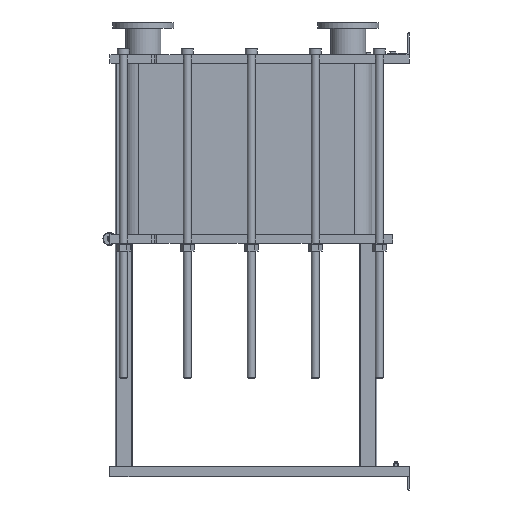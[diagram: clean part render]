
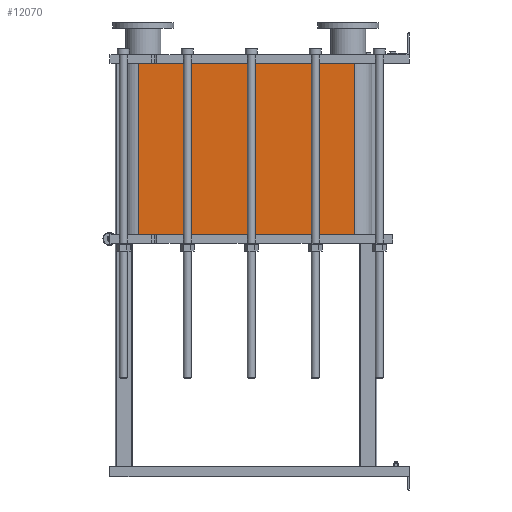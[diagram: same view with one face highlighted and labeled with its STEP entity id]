
A CAD part, left-side view. The second image highlights one B-rep face of the part: STEP entity #12070.
In plain terms, the highlighted planar face has unit normal (-1, 0, 0).
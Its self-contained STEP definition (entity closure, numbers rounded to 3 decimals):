
#1064=LINE('',#21140,#2164);
#1065=LINE('',#21144,#2165);
#1066=LINE('',#21146,#2166);
#1067=LINE('',#21147,#2167);
#2164=VECTOR('',#15790,10.);
#2165=VECTOR('',#15795,10.);
#2166=VECTOR('',#15796,10.);
#2167=VECTOR('',#15797,10.);
#3304=FACE_OUTER_BOUND('',#4091,.T.);
#4091=EDGE_LOOP('',(#9793,#9794,#9795,#9796));
#5677=VERTEX_POINT('',#21137);
#5678=VERTEX_POINT('',#21139);
#5679=VERTEX_POINT('',#21143);
#5680=VERTEX_POINT('',#21145);
#7118=EDGE_CURVE('',#5678,#5677,#1064,.T.);
#7120=EDGE_CURVE('',#5677,#5679,#1065,.T.);
#7121=EDGE_CURVE('',#5680,#5679,#1066,.T.);
#7122=EDGE_CURVE('',#5680,#5678,#1067,.T.);
#9793=ORIENTED_EDGE('',*,*,#7120,.T.);
#9794=ORIENTED_EDGE('',*,*,#7121,.F.);
#9795=ORIENTED_EDGE('',*,*,#7122,.T.);
#9796=ORIENTED_EDGE('',*,*,#7118,.T.);
#11441=PLANE('',#13191);
#12070=ADVANCED_FACE('',(#3304),#11441,.T.);
#13191=AXIS2_PLACEMENT_3D('',#21142,#15793,#15794);
#15790=DIRECTION('',(0.,0.,-1.));
#15793=DIRECTION('center_axis',(-1.,0.,0.));
#15794=DIRECTION('ref_axis',(0.,1.,0.));
#15795=DIRECTION('',(0.,-1.,0.));
#15796=DIRECTION('',(0.,0.,-1.));
#15797=DIRECTION('',(0.,1.,0.));
#21137=CARTESIAN_POINT('',(-248.152,1243.818,-786.6));
#21139=CARTESIAN_POINT('',(-248.152,1243.818,0.));
#21140=CARTESIAN_POINT('',(-248.152,1243.818,0.));
#21142=CARTESIAN_POINT('Origin',(-248.152,251.818,0.));
#21143=CARTESIAN_POINT('',(-248.152,251.818,-786.6));
#21144=CARTESIAN_POINT('',(-248.152,499.818,-786.6));
#21145=CARTESIAN_POINT('',(-248.152,251.818,0.));
#21146=CARTESIAN_POINT('',(-248.152,251.818,0.));
#21147=CARTESIAN_POINT('',(-248.152,251.818,0.));
